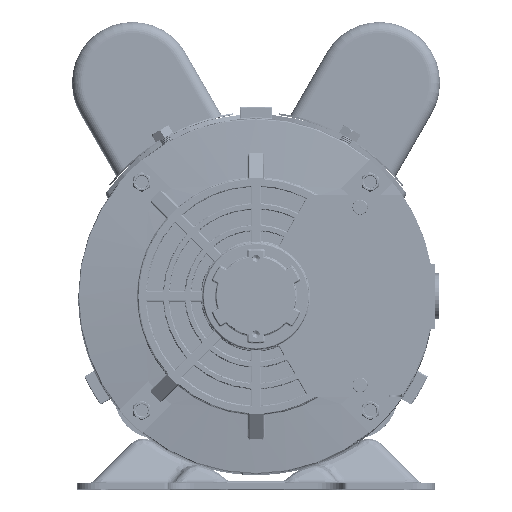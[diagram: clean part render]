
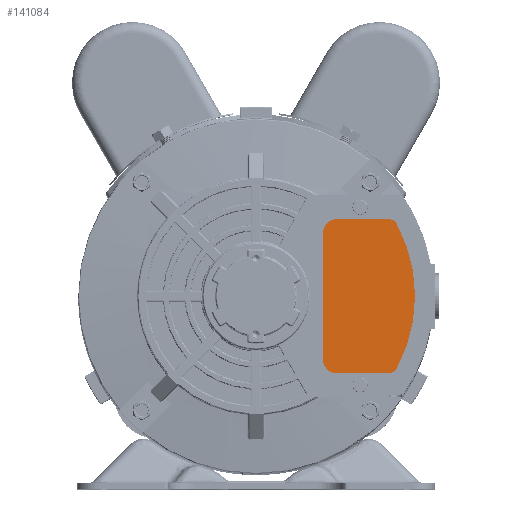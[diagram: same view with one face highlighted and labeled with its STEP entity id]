
A CAD part, top view. The second image highlights one B-rep face of the part: STEP entity #141084.
In plain terms, the highlighted planar face has unit normal (0, 0, 1).
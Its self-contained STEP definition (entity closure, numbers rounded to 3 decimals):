
#5673 = DIRECTION ( 'NONE',  ( 0., 0., 1. ) ) ;
#7164 = EDGE_CURVE ( 'NONE', #126415, #24203, #72164, .T. ) ;
#9177 = AXIS2_PLACEMENT_3D ( 'NONE', #18083, #55964, #106134 ) ;
#14626 = LINE ( 'NONE', #64847, #94230 ) ;
#16328 = VERTEX_POINT ( 'NONE', #38122 ) ;
#17259 = ORIENTED_EDGE ( 'NONE', *, *, #18243, .T. ) ;
#18026 = FACE_OUTER_BOUND ( 'NONE', #71575, .T. ) ;
#18083 = CARTESIAN_POINT ( 'NONE',  ( 21.039, -46.665, 492.8 ) ) ;
#18243 = EDGE_CURVE ( 'NONE', #24203, #137657, #132708, .T. ) ;
#19932 = CARTESIAN_POINT ( 'NONE',  ( 23.371, 20.335, 492.8 ) ) ;
#22245 = ORIENTED_EDGE ( 'NONE', *, *, #70115, .T. ) ;
#22653 = LINE ( 'NONE', #72846, #61383 ) ;
#23706 = VERTEX_POINT ( 'NONE', #145110 ) ;
#24203 = VERTEX_POINT ( 'NONE', #104571 ) ;
#32372 = DIRECTION ( 'NONE',  ( 0., 0., 1. ) ) ;
#34621 = CIRCLE ( 'NONE', #126629, 6. ) ;
#36228 = DIRECTION ( 'NONE',  ( 0., 0., 1. ) ) ;
#38122 = CARTESIAN_POINT ( 'NONE',  ( -9.339, -44.665, 492.8 ) ) ;
#43652 = CIRCLE ( 'NONE', #135670, 6. ) ;
#44206 = DIRECTION ( 'NONE',  ( 0., 0., 1. ) ) ;
#44793 = CARTESIAN_POINT ( 'NONE',  ( -3.339, -50.665, 492.8 ) ) ;
#46468 = EDGE_CURVE ( 'NONE', #137657, #52921, #34621, .T. ) ;
#47853 = AXIS2_PLACEMENT_3D ( 'NONE', #148989, #36228, #86437 ) ;
#49611 = CARTESIAN_POINT ( 'NONE',  ( -3.339, -44.665, 492.8 ) ) ;
#52921 = VERTEX_POINT ( 'NONE', #111871 ) ;
#53257 = VERTEX_POINT ( 'NONE', #96074 ) ;
#55913 = DIRECTION ( 'NONE',  ( 1., 0., 0. ) ) ;
#55964 = DIRECTION ( 'NONE',  ( 0., 0., 1. ) ) ;
#61383 = VECTOR ( 'NONE', #123071, 1000. ) ;
#64847 = CARTESIAN_POINT ( 'NONE',  ( -9.339, -50.665, 492.8 ) ) ;
#68239 = PLANE ( 'NONE',  #70718 ) ;
#70115 = EDGE_CURVE ( 'NONE', #53257, #23706, #80144, .T. ) ;
#70153 = DIRECTION ( 'NONE',  ( -1., 0., 0. ) ) ;
#70718 = AXIS2_PLACEMENT_3D ( 'NONE', #118451, #5673, #55913 ) ;
#71575 = EDGE_LOOP ( 'NONE', ( #77467, #22245, #125457, #157921, #17259, #158355, #129255, #102529 ) ) ;
#72164 = CIRCLE ( 'NONE', #98458, 4. ) ;
#72846 = CARTESIAN_POINT ( 'NONE',  ( -9.339, 20.335, 492.8 ) ) ;
#77467 = ORIENTED_EDGE ( 'NONE', *, *, #117880, .T. ) ;
#80144 = CIRCLE ( 'NONE', #9177, 4. ) ;
#82563 = DIRECTION ( 'NONE',  ( 0., -1., 0. ) ) ;
#85270 = EDGE_CURVE ( 'NONE', #16328, #93462, #43652, .T. ) ;
#86437 = DIRECTION ( 'NONE',  ( 0., -1., 0. ) ) ;
#93462 = VERTEX_POINT ( 'NONE', #44793 ) ;
#94230 = VECTOR ( 'NONE', #115057, 1000. ) ;
#96074 = CARTESIAN_POINT ( 'NONE',  ( 21.039, -50.665, 492.8 ) ) ;
#96580 = DIRECTION ( 'NONE',  ( 0., -1., 0. ) ) ;
#98458 = AXIS2_PLACEMENT_3D ( 'NONE', #156938, #44206, #96580 ) ;
#98498 = EDGE_CURVE ( 'NONE', #52921, #16328, #22653, .T. ) ;
#99777 = DIRECTION ( 'NONE',  ( 0., 0., 1. ) ) ;
#102529 = ORIENTED_EDGE ( 'NONE', *, *, #85270, .T. ) ;
#104571 = CARTESIAN_POINT ( 'NONE',  ( 21.039, 20.335, 492.8 ) ) ;
#106134 = DIRECTION ( 'NONE',  ( 0., -1., 0. ) ) ;
#107281 = CARTESIAN_POINT ( 'NONE',  ( -3.339, 14.335, 492.8 ) ) ;
#109279 = EDGE_CURVE ( 'NONE', #23706, #126415, #118778, .T. ) ;
#111871 = CARTESIAN_POINT ( 'NONE',  ( -9.339, 14.335, 492.8 ) ) ;
#115057 = DIRECTION ( 'NONE',  ( 1., 0., 0. ) ) ;
#117880 = EDGE_CURVE ( 'NONE', #93462, #53257, #14626, .T. ) ;
#118451 = CARTESIAN_POINT ( 'NONE',  ( -36.959, -15.165, 492.8 ) ) ;
#118778 = CIRCLE ( 'NONE', #47853, 70. ) ;
#123071 = DIRECTION ( 'NONE',  ( 0., -1., 0. ) ) ;
#125457 = ORIENTED_EDGE ( 'NONE', *, *, #109279, .T. ) ;
#126415 = VERTEX_POINT ( 'NONE', #159647 ) ;
#126629 = AXIS2_PLACEMENT_3D ( 'NONE', #107281, #32372, #82563 ) ;
#129255 = ORIENTED_EDGE ( 'NONE', *, *, #98498, .T. ) ;
#132708 = LINE ( 'NONE', #19932, #146016 ) ;
#135670 = AXIS2_PLACEMENT_3D ( 'NONE', #49611, #99777, #150001 ) ;
#137657 = VERTEX_POINT ( 'NONE', #152411 ) ;
#141084 = ADVANCED_FACE ( 'NONE', ( #18026 ), #68239, .T. ) ;
#145110 = CARTESIAN_POINT ( 'NONE',  ( 24.554, -48.574, 492.8 ) ) ;
#146016 = VECTOR ( 'NONE', #70153, 1000. ) ;
#148989 = CARTESIAN_POINT ( 'NONE',  ( -36.959, -15.165, 492.8 ) ) ;
#150001 = DIRECTION ( 'NONE',  ( 0., -1., 0. ) ) ;
#152411 = CARTESIAN_POINT ( 'NONE',  ( -3.339, 20.335, 492.8 ) ) ;
#156938 = CARTESIAN_POINT ( 'NONE',  ( 21.039, 16.335, 492.8 ) ) ;
#157921 = ORIENTED_EDGE ( 'NONE', *, *, #7164, .T. ) ;
#158355 = ORIENTED_EDGE ( 'NONE', *, *, #46468, .T. ) ;
#159647 = CARTESIAN_POINT ( 'NONE',  ( 24.554, 18.244, 492.8 ) ) ;
